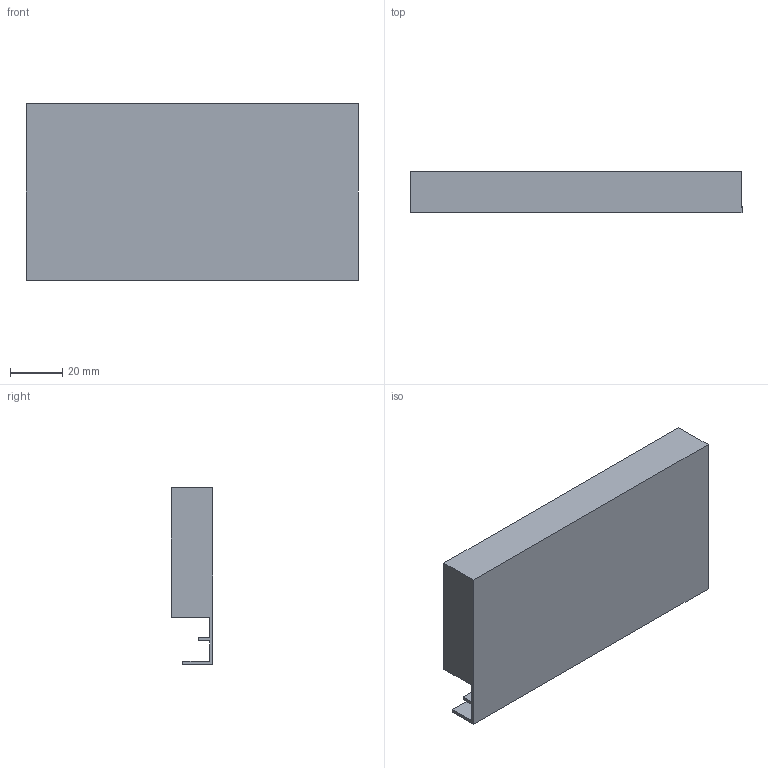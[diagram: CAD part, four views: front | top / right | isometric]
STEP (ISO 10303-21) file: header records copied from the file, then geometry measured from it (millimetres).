
FILE_DESCRIPTION (( 'STEP AP214' ), '1' );
FILE_NAME ('Innenschub-Blendenprofil_KAB250_S16.step', '2010-09-23T12:26:45', ( 'grass' ), ( '' ), 'SwSTEP 2.0', 'SolidWorks 2010', '' );
FILE_SCHEMA (( 'AUTOMOTIVE_DESIGN' ));
Length unit declared in the file: millimetre
Products named in the file (1): Innenschub-Blendenprofil_KAB250_S16
Bounding box: 127 x 15.9 x 67.6 mm (x, y, z)
Volume: 105264.7 mm3; surface area: 26610.4 mm2
Topology: 1 solids, 1 shells, 17 faces, 42 edges, 28 vertices
Faces by surface type: plane 15, cylinder 2
Entity records: 534 total; most frequent: CARTESIAN_POINT 88, ORIENTED_EDGE 84, DIRECTION 82, EDGE_CURVE 42, LINE 38, VECTOR 38, VERTEX_POINT 28, AXIS2_PLACEMENT_3D 22
